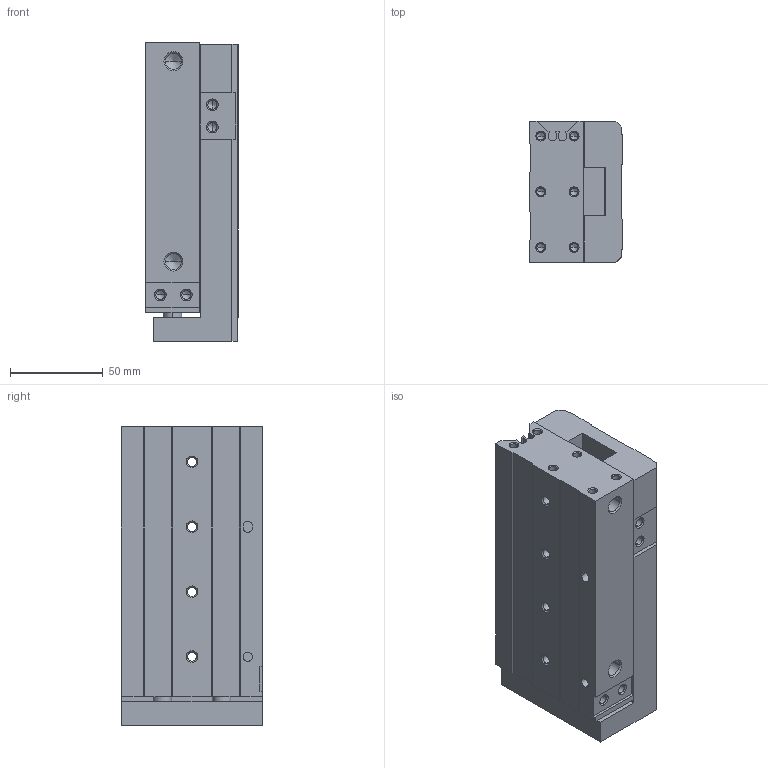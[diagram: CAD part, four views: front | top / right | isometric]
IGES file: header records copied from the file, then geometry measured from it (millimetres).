
Global section: file name: No Iges File Name specified; native system: Autodesk Inventor 2011; preprocessor: AutoDesk Inventor Iges Exporter R2011; author: airolcr1; date: 20110310.120051; units: millimetre
Bounding box: 50 x 76 x 161 mm (x, y, z)
Volume: 540125.9 mm3; surface area: 100109.8 mm2
Topology: 2 solids, 2 shells, 251 faces, 626 edges, 368 vertices
Faces by surface type: bspline 157, plane 78, revolution 12, cylinder 4
